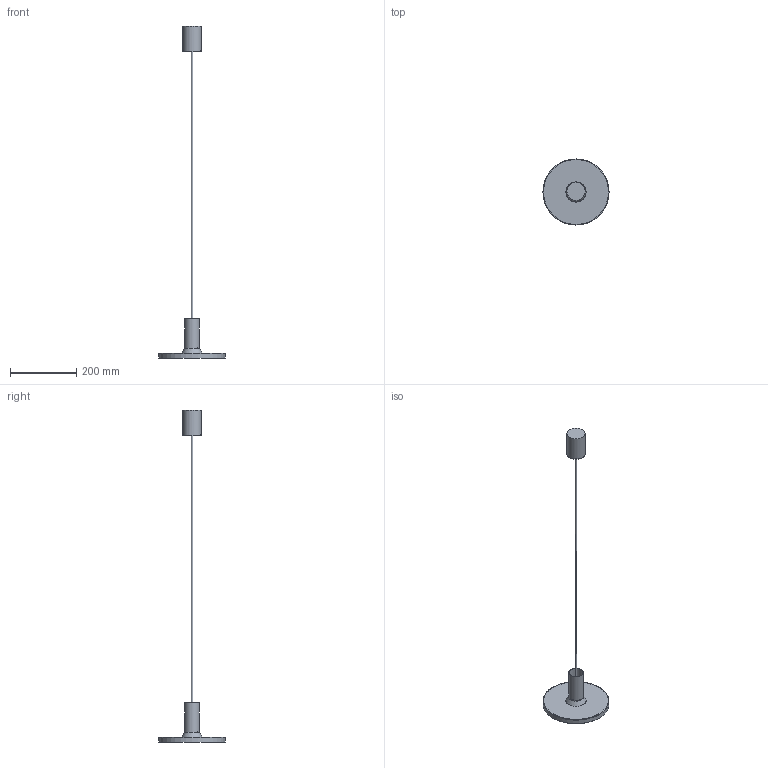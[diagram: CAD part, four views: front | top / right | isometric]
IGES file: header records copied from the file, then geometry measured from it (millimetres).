
Start section: SolidWorks IGES file using analytic representation for surfaces
Global section: file name: X:\PRODUKT\Modele 3D_WWW\_KOLEKCJE WWW\HERMANOS\8100\HERMANOS-I-8100.IGS; native system: SolidWorks 2021; preprocessor: SolidWorks 2021; author: gabriela.tworek; date: 220912.103949; units: millimetre
Bounding box: 200 x 200 x 1005.01 mm (x, y, z)
Surface area: 145833.6 mm2 (no closed solid volume)
Topology: 0 solids, 0 shells, 33 faces, 81 edges, 61 vertices
Faces by surface type: revolution 20, bspline 13
